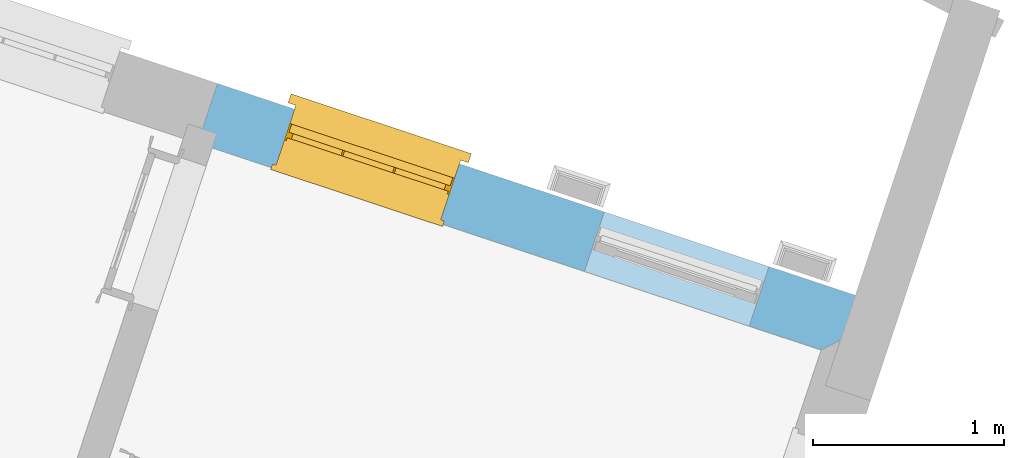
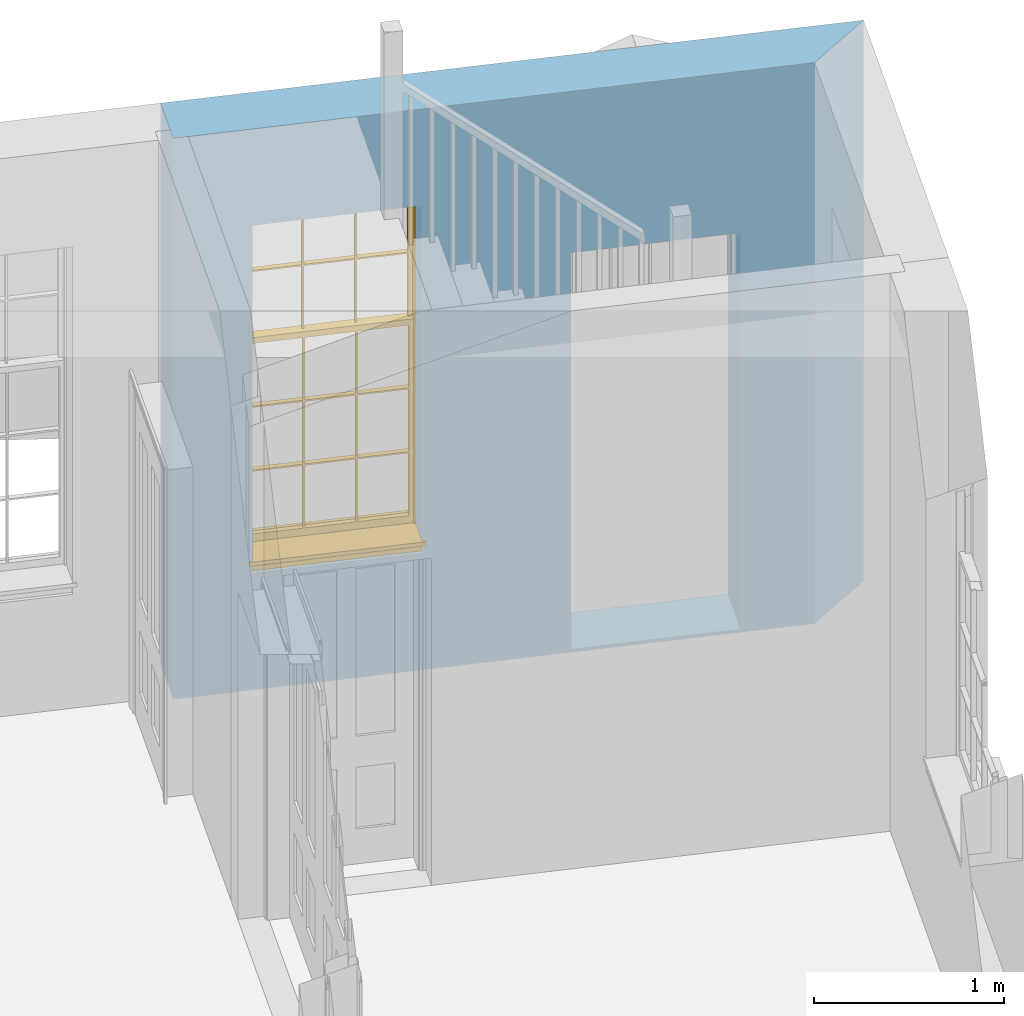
# One storey, part 5 of 6: 1 window, 2 openings, plus 1 element that does not belong to this part.
"""IFC4 building model written with IfcOpenShell, lengths in metres."""

import ifcopenshell
import ifcopenshell.guid

model = None  # the IFC model being written
_history = None  # IfcOwnerHistory: only IFC2X3 demands one
_inside = {}  # id of a spatial element -> (the spatial element, [elements in it])
_under = {}  # id of a project, library or spatial element -> (it, [spatial elements below it])
_declared = {}  # id of a project -> (the project, [libraries it declares])
_typed = {}  # id of a type object -> (the type object, [elements of that type])
_made_of = {}  # id of a material, layer set ... -> (it, [elements and type objects made of it])


def new_model(schema):
    """Start an empty IFC model of exactly this schema.

    Asked for "IFC4X3", IfcOpenShell would pick the latest addendum, in which some entities
    have other attributes; the version numbers below select the first issue.
    IFC2X3 requires an IfcOwnerHistory on every rooted entity: one is made here for all.
    """
    global model, _history
    if schema == "IFC4X3":
        model = ifcopenshell.file(schema_version=(4, 3, 0, 0))
    else:
        model = ifcopenshell.file(schema=schema)
    _inside.clear()
    _under.clear()
    _declared.clear()
    _typed.clear()
    _made_of.clear()
    _history = None
    if model.schema == "IFC2X3":
        org = make("IfcOrganization", Name="unknown")
        user = make(
            "IfcPersonAndOrganization",
            ThePerson=make("IfcPerson", FamilyName="unknown"),
            TheOrganization=org,
        )
        app = make(
            "IfcApplication",
            ApplicationDeveloper=org,
            Version="unknown",
            ApplicationFullName="unknown",
            ApplicationIdentifier="unknown",
        )
        _history = make(
            "IfcOwnerHistory",
            OwningUser=user,
            OwningApplication=app,
            ChangeAction="ADDED",
            CreationDate=0,
        )
    return model


def make(cls, **values):
    """One entity of the class cls with the attributes given. An attribute that is None is left unset."""
    return model.create_entity(
        cls, **{name: value for name, value in values.items() if value is not None}
    )


def rooted(cls, **values):
    """An entity with a GlobalId (a new one), such as an element, a storey or a relation."""
    return make(cls, GlobalId=ifcopenshell.guid.new(), OwnerHistory=_history, **values)


def si_unit(unit_type, name, prefix=None):
    """IfcSIUnit, for example si_unit("LENGTHUNIT", "METRE", prefix="MILLI")."""
    return make("IfcSIUnit", UnitType=unit_type, Prefix=prefix, Name=name)


def assignment(units):
    """IfcUnitAssignment: the units of a project."""
    return None if units is None else make("IfcUnitAssignment", Units=units)


def point(xyz):
    """IfcCartesianPoint."""
    return None if xyz is None else make("IfcCartesianPoint", Coordinates=xyz)


def direction(xyz):
    """IfcDirection."""
    return None if xyz is None else make("IfcDirection", DirectionRatios=xyz)


def frame(location, z_axis=None, x_axis=None):
    """IfcAxis2Placement3D, a coordinate frame: its origin and axes. An axis left out is left unset."""
    return make(
        "IfcAxis2Placement3D",
        Location=point(location),
        Axis=direction(z_axis),
        RefDirection=direction(x_axis),
    )


def origin():
    """The frame at (0, 0, 0) with its axes left unset."""
    return frame((0.0, 0.0, 0.0))


def origin_with_axes():
    """The frame at (0, 0, 0) with the z axis (0, 0, 1) and the x axis (1, 0, 0) written out."""
    return frame((0.0, 0.0, 0.0), z_axis=(0.0, 0.0, 1.0), x_axis=(1.0, 0.0, 0.0))


def place(relative_to, where):
    """IfcLocalPlacement: puts the frame where relative to a parent placement (None: the world)."""
    return make(
        "IfcLocalPlacement", PlacementRelTo=relative_to, RelativePlacement=where
    )


def context(
    kind, dimensions, precision=None, world=None, true_north=None, identifier=None
):
    """IfcGeometricRepresentationContext, for example the 3D "Model" context."""
    return make(
        "IfcGeometricRepresentationContext",
        ContextIdentifier=identifier,
        ContextType=kind,
        CoordinateSpaceDimension=dimensions,
        Precision=precision,
        WorldCoordinateSystem=world,
        TrueNorth=true_north,
    )


def subcontext(parent, identifier, kind, view, scale=None):
    """IfcGeometricRepresentationSubContext, for example "Body" below "Model"."""
    return make(
        "IfcGeometricRepresentationSubContext",
        ContextIdentifier=identifier,
        ContextType=kind,
        ParentContext=parent,
        TargetScale=scale,
        TargetView=view,
    )


def project(units=None, contexts=None):
    """IfcProject with its units and contexts."""
    return rooted(
        "IfcProject",
        Name="project",
        RepresentationContexts=contexts,
        UnitsInContext=assignment(units),
    )


def spatial(cls, under=None, at=None, **own):
    """A site, building, storey or space (cls), placed at a placement, below another one or the project."""
    s = rooted(cls, ObjectPlacement=at, **own)
    if under is not None:
        _under.setdefault(under.id(), (under, []))[1].append(s)
    return s


def polyline(points):
    """IfcPolyline through the points."""
    return make("IfcPolyline", Points=[point(p) for p in points])


def outline(outer, holes=None, kind="AREA"):
    """IfcArbitraryClosedProfileDef: a profile drawn as a closed curve; with holes, ...WithVoids."""
    if holes is None:
        return make("IfcArbitraryClosedProfileDef", ProfileType=kind, OuterCurve=outer)
    return make(
        "IfcArbitraryProfileDefWithVoids",
        ProfileType=kind,
        OuterCurve=outer,
        InnerCurves=holes,
    )


def extrude(swept, where, along, depth):
    """IfcExtrudedAreaSolid: the profile swept, set in the frame where, extruded along a direction by depth."""
    return make(
        "IfcExtrudedAreaSolid",
        SweptArea=swept,
        Position=where,
        ExtrudedDirection=direction(along),
        Depth=depth,
    )


def faces_of(points, faces, orient=None, outer=None):
    """IfcFace entities. A face is a list of loops; a loop is a list of indices into points, from 0.

    orient and outer hold one flag for each loop. By default every Orientation is true, the
    first loop of a face is its IfcFaceOuterBound and the others are IfcFaceBound.
    """
    made = []
    for i, loops in enumerate(faces):
        bounds = []
        for j, loop in enumerate(loops):
            is_outer = j == 0 if outer is None else outer[i][j]
            bounds.append(
                make(
                    "IfcFaceOuterBound" if is_outer else "IfcFaceBound",
                    Bound=make("IfcPolyLoop", Polygon=[points[k] for k in loop]),
                    Orientation=True if orient is None else orient[i][j],
                )
            )
        made.append(make("IfcFace", Bounds=bounds))
    return made


def faceted_brep(points, faces, orient=None, outer=None, voids=None):
    """IfcFacetedBrep: a solid bounded by flat faces; with voids (closed shells), ...WithVoids."""
    shared = [point(p) for p in points]
    hull = make("IfcClosedShell", CfsFaces=faces_of(shared, faces, orient, outer))
    if voids is None:
        return make("IfcFacetedBrep", Outer=hull)
    return make(
        "IfcFacetedBrepWithVoids",
        Outer=hull,
        Voids=[
            make(cls, CfsFaces=faces_of(shared, fs, o, b)) for cls, fs, o, b in voids
        ],
    )


def shape(context_of_items, identifier, shape_type, items):
    """IfcShapeRepresentation: the items that make up one representation, for example the "Body"."""
    return make(
        "IfcShapeRepresentation",
        ContextOfItems=context_of_items,
        RepresentationIdentifier=identifier,
        RepresentationType=shape_type,
        Items=items,
    )


def source(mapping_origin, context_of_items, identifier, shape_type, items):
    """IfcRepresentationMap: a shape defined once, which mapped items show again and again."""
    return make(
        "IfcRepresentationMap",
        MappingOrigin=mapping_origin,
        MappedRepresentation=shape(context_of_items, identifier, shape_type, items),
    )


def transform(
    local_origin,
    x_axis=None,
    y_axis=None,
    z_axis=None,
    scale=None,
    scale2=None,
    scale3=None,
    uniform=True,
):
    """IfcCartesianTransformationOperator3D, or its non-uniform kind. x_axis, y_axis, z_axis: its Axis1, 2, 3."""
    if uniform:
        return make(
            "IfcCartesianTransformationOperator3D",
            Axis1=direction(x_axis),
            Axis2=direction(y_axis),
            LocalOrigin=point(local_origin),
            Scale=scale,
            Axis3=direction(z_axis),
        )
    return make(
        "IfcCartesianTransformationOperator3DnonUniform",
        Axis1=direction(x_axis),
        Axis2=direction(y_axis),
        LocalOrigin=point(local_origin),
        Scale=scale,
        Axis3=direction(z_axis),
        Scale2=scale2,
        Scale3=scale3,
    )


def mapped(mapping_source, mapping_target):
    """IfcMappedItem: shows the shape of a source again, moved by a transform."""
    return make(
        "IfcMappedItem", MappingSource=mapping_source, MappingTarget=mapping_target
    )


def material(Name=None, Category=None):
    """IfcMaterial."""
    return make("IfcMaterial", Name=Name, Category=Category)


def layer(
    of_material, thickness, ventilated=None, Name=None, Category=None, Priority=None
):
    """IfcMaterialLayer: one layer of a wall or slab, of a material (None: an air gap)."""
    return make(
        "IfcMaterialLayer",
        Material=of_material,
        LayerThickness=thickness,
        IsVentilated=ventilated,
        Name=Name,
        Category=Category,
        Priority=Priority,
    )


def layer_set(layers, Name=None):
    """IfcMaterialLayerSet."""
    return make("IfcMaterialLayerSet", MaterialLayers=layers, LayerSetName=Name)


def layer_usage(for_layer_set, set_direction, sense, offset, extent=None):
    """IfcMaterialLayerSetUsage: how a layer set lies in its element."""
    return make(
        "IfcMaterialLayerSetUsage",
        ForLayerSet=for_layer_set,
        LayerSetDirection=set_direction,
        DirectionSense=sense,
        OffsetFromReferenceLine=offset,
        ReferenceExtent=extent,
    )


def made_of(thing, what):
    """Note that an element or type object is made of a material, layer set ...; save() writes the relation."""
    if what is not None:
        _made_of.setdefault(what.id(), (what, []))[1].append(thing)
    return thing


def type_object(cls, material=None, **own):
    """A type object (cls), such as IfcWallType, which elements share."""
    return made_of(rooted(cls, **own), material)


def type_shapes(of_type, sources):
    """Give a type object the sources (RepresentationMaps) that its elements show as mapped items."""
    of_type.RepresentationMaps = sources


def element(
    cls,
    number,
    at=None,
    inside=None,
    cuts=None,
    type_object=None,
    material=None,
    context=None,
    identifier="Body",
    shape_type=None,
    held_by="IfcProductDefinitionShape",
    body=None,
    shapes=None,
    **own,
):
    """One element of the class cls, such as IfcWall. Its Tag is "e" and its number.

    at: its placement. inside: the storey or other place that contains it. cuts: it is an
    opening in that element (IfcRelVoidsElement). A single representation is given by context,
    identifier, shape_type and body (its items); several are given by shapes. held_by: the class
    of the entity that holds the representations. save() writes the other relations.
    """
    e = rooted(cls, Tag="e%d" % number, ObjectPlacement=at, **own)
    if body is not None:
        shapes = [shape(context, identifier, shape_type, body)]
    if shapes is not None:
        e.Representation = make(held_by, Representations=shapes)
    if inside is not None:
        _inside.setdefault(inside.id(), (inside, []))[1].append(e)
    if cuts is not None:
        rooted(
            "IfcRelVoidsElement", RelatingBuildingElement=cuts, RelatedOpeningElement=e
        )
    if type_object is not None:
        _typed.setdefault(type_object.id(), (type_object, []))[1].append(e)
    return made_of(e, material)


def fill(opening, filler):
    """IfcRelFillsElement: the door or window that sits in an opening."""
    return rooted(
        "IfcRelFillsElement",
        RelatingOpeningElement=opening,
        RelatedBuildingElement=filler,
    )


def aggregate(whole, parts):
    """IfcRelAggregates: a whole, such as a stair, and the parts it consists of."""
    return rooted("IfcRelAggregates", RelatingObject=whole, RelatedObjects=parts)


def save(model, path):
    """Write the relations noted so far, then the file.

    IfcRelAggregates (storeys below a building ...), IfcRelContainedInSpatialStructure (elements
    in a storey), IfcRelDefinesByType, IfcRelAssociatesMaterial and IfcRelDeclares: one each for
    every whole, place, type object, material and project.
    """
    for whole, parts in _under.values():
        aggregate(whole, parts)
    for where, things in _inside.values():
        rooted(
            "IfcRelContainedInSpatialStructure",
            RelatedElements=things,
            RelatingStructure=where,
        )
    for kind, things in _typed.values():
        rooted("IfcRelDefinesByType", RelatedObjects=things, RelatingType=kind)
    for what, things in _made_of.values():
        rooted("IfcRelAssociatesMaterial", RelatedObjects=things, RelatingMaterial=what)
    for by, libraries in _declared.values():
        rooted("IfcRelDeclares", RelatingContext=by, RelatedDefinitions=libraries)
    model.write(path)


model = new_model("IFC4")

# Units and contexts
model_context = context("Model", 3, world=origin_with_axes())
body_context = subcontext(model_context, "Body", "Model", "MODEL_VIEW")
ifc_project = project(units=[si_unit("PLANEANGLEUNIT", "RADIAN"), si_unit("MASSUNIT", "GRAM", prefix="KILO"), si_unit("FORCEUNIT", "NEWTON", prefix="KILO"), si_unit("LENGTHUNIT", "METRE"), si_unit("AREAUNIT", "SQUARE_METRE"), si_unit("VOLUMEUNIT", "CUBIC_METRE")], contexts=[model_context, model_context])

# Sites, building, storey
site_1_placement = place(None, origin_with_axes())
site_1 = spatial("IfcSite", under=ifc_project, at=site_1_placement, Name="Tamar")
site_2_placement = place(site_1_placement, origin_with_axes())
site_2 = spatial("IfcSite", under=site_1, at=site_2_placement, Name="Site plot-17", CompositionType="ELEMENT")
building_placement = place(None, origin_with_axes())
building = spatial("IfcBuilding", under=site_2, at=building_placement, Name="Building plot-17", CompositionType="ELEMENT")
storey_placement = place(None, frame((0.0, 0.0, 26.8), z_axis=(0.0, 0.0, 1.0), x_axis=(1.0, 0.0, 0.0)))
storey = spatial("IfcBuildingStorey", under=building, at=storey_placement, Name="plot-17 0", CompositionType="ELEMENT", Elevation=26.8)

# Wall, openings, window
ifc_material = material(Name="Masonry")
ifc_layer = layer(ifc_material, 0.33, ventilated=False)
ifc_layer_set = layer_set([ifc_layer], Name="exterior_0.08_0.25")
ifc_layer_usage = layer_usage(ifc_layer_set, "AXIS2", "POSITIVE", -0.25)
wall_type = type_object("IfcWallType", Name="exterior_0.08_0.25", PredefinedType="SOLIDWALL", material=ifc_layer_set)
wall_placement = place(storey_placement, frame((274.456288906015, 305.249763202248, 0.0), z_axis=(0.0, 0.0, 1.0), x_axis=(-0.949078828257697, 0.315038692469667, 0.0)))
wall = element("IfcWall", 1, at=wall_placement, inside=storey, type_object=wall_type, material=ifc_layer_usage, Name="exterior", context=body_context, shape_type="SweptSolid", body=[
    extrude(outline(polyline([(0.0800000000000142, 0.0800000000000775), (-0.249999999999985, -0.249999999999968), (3.52185421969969, -0.249999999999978), (3.52185421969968, 0.0799999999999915), (0.0800000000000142, 0.0800000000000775)])), origin_with_axes(), (0.0, 0.0, 1.0), 3.6),
])
opening_1_placement = place(wall_placement, frame((0.476390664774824, 0.0, 0.0199999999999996)))
element("IfcOpeningElement", 2, at=opening_1_placement, cuts=wall, Name="My Opening", ObjectType="Opening", context=body_context, shape_type="SweptSolid", body=[
    extrude(outline(polyline([(0.0, -0.270000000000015), (0.909999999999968, -0.269999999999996), (0.909999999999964, 1.10000000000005), (-3.99680288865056e-15, 1.10000000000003), (0.0, -0.270000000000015)])), origin_with_axes(), (0.0, 0.0, 1.0), 2.545),
])
opening_2_placement = place(wall_placement, frame((2.18639066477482, 0.0, 0.75)))
opening_2 = element("IfcOpeningElement", 3, at=opening_2_placement, cuts=wall, Name="My Opening", ObjectType="Opening", context=body_context, shape_type="SweptSolid", body=[
    extrude(outline(polyline([(0.0, -0.270000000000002), (0.909999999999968, -0.269999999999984), (0.909999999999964, 1.10000000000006), (-3.99680288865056e-15, 1.10000000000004), (0.0, -0.270000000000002)])), origin_with_axes(), (0.0, 0.0, 1.0), 2.23),
])
window_type = type_object("IfcWindowType", Name="sash_big_taller", PartitioningType="DOUBLE_PANEL_HORIZONTAL", PredefinedType="NOTDEFINED")
shared_shape = source(origin(), body_context, "Body", "Brep", [
    faceted_brep([(0.033125, 0.145, 1.385209), (0.01, 0.145, 1.385209), (0.033125, 0.145, 1.786042), (0.876875, 0.145, 1.385209), (0.876875, 0.145, 1.786042), (0.9, 0.145, 1.385209), (0.876875, 0.145, 1.796042), (0.876875, 0.145, 2.196875), (0.9, 0.145, 2.22), (0.033125, 0.145, 2.196875), (0.033125, 0.145, 1.796042), (0.01, 0.145, 2.22), (0.876875, 0.115, 1.786042), (0.876875, 0.115, 1.385209), (0.9, 0.115, 1.347084), (0.033125, 0.115, 2.196875), (0.01, 0.115, 2.22), (0.033125, 0.115, 1.796042), (0.01, 0.115, 1.347084), (0.033125, 0.115, 1.385209), (0.033125, 0.115, 1.786042), (0.876875, 0.115, 2.196875), (0.876875, 0.115, 1.796042), (0.9, 0.115, 2.22), (0.033125, 0.145, 1.347084), (0.01, 0.145, 1.347084), (0.033125, 0.145, 0.94625), (0.876875, 0.145, 1.347084), (0.876875, 0.145, 0.94625), (0.9, 0.145, 1.347084), (0.876875, 0.145, 0.52625), (0.876875, 0.145, 0.125417), (0.9, 0.145, 0.077167), (0.033125, 0.145, 0.125417), (0.033125, 0.145, 0.52625), (0.01, 0.145, 0.077167), (-0.0425, 0.0, 0.01), (-0.0425, -0.05, 0.001667), (0.0, 0.0, 0.01), (0.9525, 0.0, 0.01), (0.91, 0.0, 0.01), (0.9525, -0.05, 0.001667), (-0.02, 0.33, 0.077167), (0.0, 0.33, 0.077167), (-0.02, 0.36, 0.077167), (0.0, 0.19, 0.077167), (0.01, 0.19, 0.077167), (0.91, 0.19, 0.077167), (0.91, 0.33, 0.077167), (0.9, 0.19, 0.077167), (0.93, 0.33, 0.077167), (0.93, 0.36, 0.077167), (0.01, 0.175, 1.385209), (0.9, 0.175, 1.385209), (0.876875, 0.175, 0.125417), (0.876875, 0.175, 0.52625), (0.9, 0.175, 0.077167), (0.876875, 0.175, 0.94625), (0.876875, 0.175, 1.347084), (0.033125, 0.175, 0.125417), (0.01, 0.175, 0.077167), (0.033125, 0.175, 0.52625), (0.033125, 0.175, 1.347084), (0.033125, 0.175, 0.94625), (-0.02, 0.33, 0.052167), (-0.02, 0.36, 0.052167), (0.93, 0.36, 0.052167), (0.93, 0.33, 0.052167), (0.91, 0.33, 0.052167), (0.0, 0.33, 0.052167), (0.91, 0.1, 0.026667), (0.0, 0.1, 0.026667), (-0.0425, -0.05, -0.123333), (0.9525, -0.05, -0.123333), (-0.0425, 0.0, -0.123333), (0.9525, 0.0, -0.123333), (0.01, 0.19, 2.22), (0.9, 0.19, 2.22), (0.0, 0.19, 2.23), (0.91, 0.19, 2.23), (0.01, 0.1, 0.077167), (0.9, 0.1, 0.077167), (0.592292, 0.145, 0.125417), (0.592292, 0.175, 0.125417), (0.317708, 0.175, 0.125417), (0.317708, 0.145, 0.125417), (0.592292, 0.145, 0.53625), (0.317708, 0.145, 0.53625), (0.317708, 0.145, 0.52625), (0.592292, 0.145, 0.52625), (0.592292, 0.175, 0.53625), (0.317708, 0.175, 0.53625), (0.592292, 0.115, 1.796042), (0.592292, 0.145, 1.796042), (0.317708, 0.145, 1.796042), (0.317708, 0.115, 1.796042), (0.317708, 0.115, 1.786042), (0.592292, 0.115, 1.786042), (0.317708, 0.145, 1.786042), (0.592292, 0.145, 1.786042), (0.602292, 0.115, 1.786042), (0.592292, 0.115, 1.385209), (0.602292, 0.115, 1.385209), (0.602292, 0.145, 1.385209), (0.592292, 0.145, 1.385209), (0.602292, 0.145, 1.786042), (0.876875, 0.145, 0.53625), (0.876875, 0.175, 0.53625), (0.602292, 0.175, 0.53625), (0.602292, 0.145, 0.53625), (0.317708, 0.175, 0.52625), (0.307708, 0.175, 0.125417), (0.307708, 0.175, 0.52625), (0.602292, 0.175, 0.52625), (0.602292, 0.175, 0.125417), (0.592292, 0.175, 0.52625), (0.307708, 0.175, 0.53625), (0.033125, 0.175, 0.53625), (0.317708, 0.175, 1.347084), (0.317708, 0.175, 0.94625), (0.307708, 0.175, 0.94625), (0.307708, 0.175, 1.347084), (0.602292, 0.175, 1.347084), (0.602292, 0.175, 0.94625), (0.592292, 0.175, 0.94625), (0.592292, 0.175, 1.347084), (0.307708, 0.145, 0.52625), (0.307708, 0.145, 0.125417), (0.307708, 0.145, 0.53625), (0.033125, 0.145, 0.53625), (0.307708, 0.145, 1.347084), (0.307708, 0.145, 0.94625), (0.592292, 0.145, 1.347084), (0.592292, 0.145, 0.94625), (0.317708, 0.145, 0.94625), (0.317708, 0.145, 1.347084), (0.602292, 0.145, 0.94625), (0.602292, 0.145, 1.347084), (0.602292, 0.145, 0.52625), (0.602292, 0.145, 0.125417), (0.307708, 0.115, 1.796042), (0.307708, 0.115, 1.786042), (0.307708, 0.115, 1.385209), (0.317708, 0.115, 1.385209), (0.317708, 0.115, 2.196875), (0.307708, 0.115, 2.196875), (0.602292, 0.115, 2.196875), (0.592292, 0.115, 2.196875), (0.602292, 0.115, 1.796042), (0.602292, 0.145, 1.796042), (0.307708, 0.145, 1.796042), (0.307708, 0.145, 2.196875), (0.317708, 0.145, 2.196875), (0.592292, 0.145, 2.196875), (0.602292, 0.145, 2.196875), (0.307708, 0.145, 1.786042), (0.317708, 0.145, 1.385209), (0.307708, 0.145, 1.385209), (0.876875, 0.175, 0.93625), (0.033125, 0.175, 0.93625), (0.033125, 0.145, 0.93625), (0.876875, 0.145, 0.93625), (0.91, 0.1, 2.23), (0.9, 0.1, 2.22), (0.01, 0.1, 2.22), (0.0, 0.1, 2.23), (0.91, 0.0, 0.0), (0.0, 0.0, 0.0), (0.91, 0.33, 0.0), (0.0, 0.33, 0.0), (0.317708, 0.145, 0.93625), (0.592292, 0.145, 0.93625), (0.317708, 0.175, 0.93625), (0.307708, 0.175, 0.93625), (0.602292, 0.175, 0.93625), (0.592292, 0.175, 0.93625), (0.307708, 0.145, 0.93625), (0.602292, 0.145, 0.93625)], [[[0, 1, 2]], [[3, 4, 5]], [[6, 7, 8]], [[9, 10, 11]], [[12, 13, 14]], [[15, 16, 17]], [[18, 19, 20]], [[21, 22, 23]], [[24, 25, 26]], [[27, 28, 29]], [[30, 31, 32]], [[33, 34, 35]], [[14, 27, 29]], [[25, 24, 18]], [[36, 37, 38]], [[39, 40, 41]], [[42, 43, 44]], [[45, 46, 43]], [[47, 48, 49]], [[50, 51, 48]], [[1, 0, 52]], [[5, 53, 3]], [[54, 55, 56]], [[57, 58, 53]], [[59, 60, 61]], [[62, 63, 52]], [[48, 43, 46, 49]], [[51, 44, 43, 48]], [[64, 42, 44, 65]], [[65, 44, 51, 66]], [[66, 51, 50, 67]], [[65, 66, 68, 69]], [[60, 56, 49, 46]], [[70, 71, 38, 40]], [[37, 41, 40, 38]], [[37, 72, 73, 41]], [[74, 75, 73, 72]], [[8, 11, 76, 77]], [[76, 78, 79, 77]], [[32, 35, 80, 81]], [[81, 80, 71, 70]], [[82, 83, 84, 85]], [[86, 87, 88, 89]], [[86, 90, 91, 87]], [[92, 93, 94, 95]], [[92, 95, 96, 97]], [[96, 98, 99, 97]], [[100, 97, 101, 102]], [[103, 104, 99, 105]], [[97, 99, 104, 101]], [[102, 103, 105, 100]], [[106, 107, 108, 109]], [[110, 84, 111, 112]], [[113, 114, 83, 115]], [[116, 112, 61, 117]], [[90, 115, 110, 91]], [[118, 119, 120, 121]], [[122, 123, 124, 125]], [[113, 108, 107, 55]], [[126, 112, 111, 127]], [[34, 61, 112, 126]], [[89, 115, 83, 82]], [[88, 110, 115, 89]], [[85, 84, 110, 88]], [[128, 116, 117, 129]], [[130, 121, 120, 131]], [[132, 125, 124, 133]], [[134, 119, 118, 135]], [[136, 123, 122, 137]], [[138, 113, 55, 30]], [[139, 114, 113, 138]], [[138, 30, 106, 109]], [[88, 126, 127, 85]], [[138, 89, 82, 139]], [[137, 132, 133, 136]], [[128, 129, 34, 126]], [[135, 130, 131, 134]], [[140, 17, 20, 141]], [[96, 141, 142, 143]], [[144, 145, 140, 95]], [[146, 147, 92, 148]], [[100, 12, 22, 148]], [[149, 6, 4, 105]], [[94, 150, 151, 152]], [[149, 93, 153, 154]], [[99, 98, 94, 93]], [[155, 2, 10, 150]], [[156, 157, 155, 98]], [[141, 155, 157, 142]], [[20, 2, 155, 141]], [[143, 156, 98, 96]], [[140, 150, 10, 17]], [[145, 151, 150, 140]], [[147, 153, 93, 92]], [[95, 94, 152, 144]], [[22, 6, 149, 148]], [[148, 149, 154, 146]], [[100, 105, 4, 12]], [[109, 86, 89, 138]], [[108, 113, 115, 90]], [[91, 110, 112, 116]], [[87, 128, 126, 88]], [[97, 100, 148, 92]], [[141, 96, 95, 140]], [[98, 155, 150, 94]], [[105, 99, 93, 149]], [[143, 101, 104, 156]], [[135, 118, 125, 132]], [[144, 152, 153, 147]], [[127, 111, 59, 33]], [[15, 9, 151, 145]], [[146, 154, 7, 21]], [[31, 54, 114, 139]], [[36, 74, 72, 37]], [[39, 41, 73, 75]], [[18, 14, 101, 143]], [[23, 16, 144, 147]], [[83, 56, 60, 84]], [[52, 53, 125, 118]], [[53, 52, 156, 104]], [[11, 8, 153, 152]], [[14, 18, 135, 132]], [[2, 1, 11, 10]], [[8, 5, 4, 6]], [[57, 53, 56, 158]], [[60, 52, 63, 159]], [[26, 25, 35, 160]], [[32, 29, 28, 161]], [[14, 23, 22, 12]], [[18, 20, 17, 16]], [[19, 0, 2, 20]], [[17, 10, 9, 15]], [[12, 4, 3, 13]], [[21, 7, 6, 22]], [[27, 58, 57, 28]], [[30, 55, 54, 31]], [[33, 59, 61, 34]], [[26, 63, 62, 24]], [[5, 8, 77, 53]], [[76, 11, 1, 52]], [[46, 45, 78, 76]], [[49, 77, 79, 47]], [[70, 162, 163, 81]], [[71, 80, 164, 165]], [[19, 142, 157, 0]], [[102, 13, 3, 103]], [[121, 130, 24, 62]], [[29, 32, 81, 14]], [[80, 35, 25, 18]], [[60, 46, 76, 52]], [[77, 49, 56, 53]], [[23, 14, 81, 163]], [[16, 164, 80, 18]], [[35, 85, 127]], [[127, 33, 35]], [[139, 82, 32]], [[32, 31, 139]], [[32, 82, 85, 35]], [[102, 101, 14]], [[14, 13, 102]], [[18, 143, 142]], [[142, 19, 18]], [[146, 21, 23]], [[23, 147, 146]], [[16, 15, 145]], [[145, 144, 16]], [[11, 152, 151]], [[151, 9, 11]], [[154, 153, 8]], [[8, 7, 154]], [[23, 163, 164, 16]], [[162, 165, 164, 163]], [[52, 118, 121]], [[121, 62, 52]], [[125, 53, 122]], [[58, 122, 53]], [[27, 137, 122, 58]], [[56, 83, 114]], [[114, 54, 56]], [[111, 84, 60]], [[60, 59, 111]], [[137, 27, 14]], [[14, 132, 137]], [[130, 135, 18]], [[18, 24, 130]], [[157, 156, 52]], [[52, 0, 157]], [[103, 3, 53]], [[53, 104, 103]], [[79, 78, 165, 162]], [[78, 45, 71, 165]], [[162, 70, 47, 79]], [[166, 75, 74, 167]], [[68, 66, 67]], [[48, 68, 67, 50]], [[69, 64, 65]], [[42, 64, 69, 43]], [[69, 68, 168, 169]], [[70, 68, 48, 47]], [[166, 168, 68, 70]], [[43, 69, 71, 45]], [[69, 169, 167, 71]], [[168, 166, 167, 169]], [[38, 167, 74, 36]], [[71, 167, 38]], [[39, 75, 166, 40]], [[40, 166, 70]], [[133, 134, 170, 171]], [[133, 124, 119, 134]], [[28, 57, 123, 136]], [[172, 91, 116, 173]], [[174, 108, 90, 175]], [[120, 173, 159, 63]], [[124, 175, 172, 119]], [[174, 123, 57, 158]], [[176, 173, 116, 128]], [[160, 159, 173, 176]], [[171, 175, 90, 86]], [[170, 172, 175, 171]], [[87, 91, 172, 170]], [[131, 120, 63, 26]], [[177, 174, 158, 161]], [[109, 108, 174, 177]], [[177, 161, 28, 136]], [[170, 176, 128, 87]], [[177, 171, 86, 109]], [[131, 26, 160, 176]], [[136, 133, 171, 177]], [[123, 174, 175, 124]], [[119, 172, 173, 120]], [[134, 131, 176, 170]], [[129, 117, 159, 160]], [[161, 158, 107, 106]], [[35, 34, 129]], [[35, 129, 160]], [[32, 106, 30]], [[32, 161, 106]], [[56, 55, 107]], [[56, 107, 158]], [[60, 117, 61]], [[60, 159, 117]]]),
])
type_shapes(window_type, [shared_shape])
window_placement = place(storey_placement, frame((272.466292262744, 306.194812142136, 0.75), z_axis=(0.0, 0.0, 1.0), x_axis=(-0.86366173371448, 0.286685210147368, 0.0)))
window = element("IfcWindow", 4, at=window_placement, inside=storey, type_object=window_type, Name="circulation outside window", OverallHeight=2.23, OverallWidth=0.91, context=body_context, shape_type="MappedRepresentation", body=[
    mapped(shared_shape, transform((0.0, 0.0, 0.0), scale=1.0)),
])
fill(opening_2, window)

save(model, "model.ifc")
